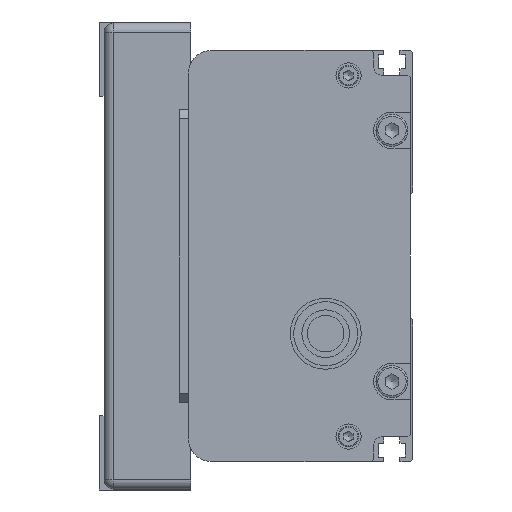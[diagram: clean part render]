
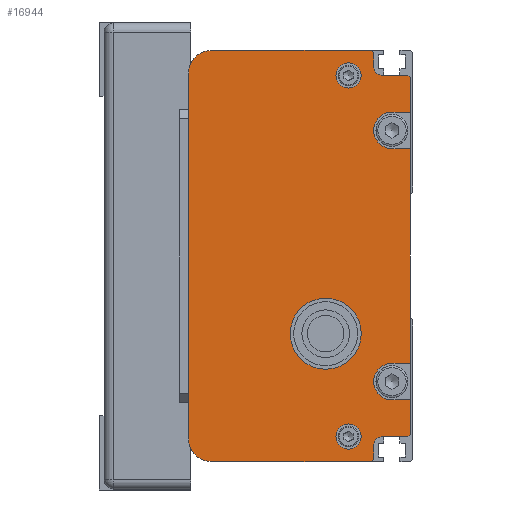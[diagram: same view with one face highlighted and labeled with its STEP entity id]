
A CAD part, left-side view. The second image highlights one B-rep face of the part: STEP entity #16944.
In plain terms, the highlighted planar face has unit normal (-1, 0, 0) as drawn and (0, 0, -1) by its records, which use the part's own axes.
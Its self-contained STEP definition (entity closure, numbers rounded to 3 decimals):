
#1076=FACE_BOUND('',#2476,.T.);
#1077=FACE_BOUND('',#2477,.T.);
#1078=FACE_BOUND('',#2478,.T.);
#1406=FACE_OUTER_BOUND('',#2475,.T.);
#2475=EDGE_LOOP('',(#11767,#11768,#11769,#11770,#11771,#11772,#11773,#11774,
#11775,#11776,#11777,#11778,#11779,#11780,#11781,#11782,#11783,#11784,#11785,
#11786,#11787,#11788,#11789,#11790));
#2476=EDGE_LOOP('',(#11791));
#2477=EDGE_LOOP('',(#11792));
#2478=EDGE_LOOP('',(#11793));
#3765=LINE('',#24545,#5263);
#3791=LINE('',#24612,#5289);
#3793=LINE('',#24617,#5291);
#3794=LINE('',#24619,#5292);
#3795=LINE('',#24622,#5293);
#3796=LINE('',#24624,#5294);
#3797=LINE('',#24626,#5295);
#3798=LINE('',#24630,#5296);
#3799=LINE('',#24632,#5297);
#3800=LINE('',#24634,#5298);
#3801=LINE('',#24638,#5299);
#3802=LINE('',#24640,#5300);
#3803=LINE('',#24642,#5301);
#3804=LINE('',#24644,#5302);
#3805=LINE('',#24648,#5303);
#3806=LINE('',#24650,#5304);
#3807=LINE('',#24651,#5305);
#3808=LINE('',#24652,#5306);
#5263=VECTOR('',#19938,80.);
#5289=VECTOR('',#19990,0.707);
#5291=VECTOR('',#19994,0.707);
#5292=VECTOR('',#19995,3.);
#5293=VECTOR('',#19998,5.5);
#5294=VECTOR('',#19999,7.5);
#5295=VECTOR('',#20000,4.);
#5296=VECTOR('',#20003,4.);
#5297=VECTOR('',#20004,47.);
#5298=VECTOR('',#20005,4.);
#5299=VECTOR('',#20008,4.);
#5300=VECTOR('',#20009,7.5);
#5301=VECTOR('',#20010,0.707);
#5302=VECTOR('',#20011,5.5);
#5303=VECTOR('',#20014,3.);
#5304=VECTOR('',#20015,0.707);
#5305=VECTOR('',#20016,35.);
#5306=VECTOR('',#20017,35.);
#6648=CIRCLE('',#18096,5.);
#6651=CIRCLE('',#18103,5.);
#6653=CIRCLE('',#18109,2.);
#6654=CIRCLE('',#18110,4.);
#6655=CIRCLE('',#18111,4.);
#6656=CIRCLE('',#18112,2.);
#6657=CIRCLE('',#18113,7.769);
#6658=CIRCLE('',#18114,2.75);
#6659=CIRCLE('',#18115,2.75);
#7251=VERTEX_POINT('',#24542);
#7252=VERTEX_POINT('',#24544);
#7253=VERTEX_POINT('',#24548);
#7256=VERTEX_POINT('',#24559);
#7279=VERTEX_POINT('',#24609);
#7280=VERTEX_POINT('',#24611);
#7281=VERTEX_POINT('',#24615);
#7282=VERTEX_POINT('',#24616);
#7283=VERTEX_POINT('',#24618);
#7284=VERTEX_POINT('',#24620);
#7285=VERTEX_POINT('',#24623);
#7286=VERTEX_POINT('',#24625);
#7287=VERTEX_POINT('',#24627);
#7288=VERTEX_POINT('',#24629);
#7289=VERTEX_POINT('',#24631);
#7290=VERTEX_POINT('',#24633);
#7291=VERTEX_POINT('',#24635);
#7292=VERTEX_POINT('',#24637);
#7293=VERTEX_POINT('',#24639);
#7294=VERTEX_POINT('',#24641);
#7295=VERTEX_POINT('',#24643);
#7296=VERTEX_POINT('',#24645);
#7297=VERTEX_POINT('',#24647);
#7298=VERTEX_POINT('',#24649);
#7299=VERTEX_POINT('',#24653);
#7300=VERTEX_POINT('',#24655);
#7301=VERTEX_POINT('',#24657);
#9033=EDGE_CURVE('',#7251,#7252,#3765,.T.);
#9035=EDGE_CURVE('',#7252,#7253,#6648,.T.);
#9040=EDGE_CURVE('',#7256,#7251,#6651,.T.);
#9064=EDGE_CURVE('',#7279,#7280,#3791,.T.);
#9066=EDGE_CURVE('',#7281,#7282,#3793,.T.);
#9067=EDGE_CURVE('',#7281,#7283,#3794,.T.);
#9068=EDGE_CURVE('',#7283,#7284,#6653,.T.);
#9069=EDGE_CURVE('',#7284,#7280,#3795,.T.);
#9070=EDGE_CURVE('',#7285,#7279,#3796,.T.);
#9071=EDGE_CURVE('',#7285,#7286,#3797,.T.);
#9072=EDGE_CURVE('',#7286,#7287,#6654,.T.);
#9073=EDGE_CURVE('',#7287,#7288,#3798,.T.);
#9074=EDGE_CURVE('',#7289,#7288,#3799,.T.);
#9075=EDGE_CURVE('',#7289,#7290,#3800,.T.);
#9076=EDGE_CURVE('',#7290,#7291,#6655,.T.);
#9077=EDGE_CURVE('',#7291,#7292,#3801,.T.);
#9078=EDGE_CURVE('',#7293,#7292,#3802,.T.);
#9079=EDGE_CURVE('',#7294,#7293,#3803,.T.);
#9080=EDGE_CURVE('',#7294,#7295,#3804,.T.);
#9081=EDGE_CURVE('',#7295,#7296,#6656,.T.);
#9082=EDGE_CURVE('',#7296,#7297,#3805,.T.);
#9083=EDGE_CURVE('',#7298,#7297,#3806,.T.);
#9084=EDGE_CURVE('',#7253,#7298,#3807,.T.);
#9085=EDGE_CURVE('',#7282,#7256,#3808,.T.);
#9086=EDGE_CURVE('',#7299,#7299,#6657,.T.);
#9087=EDGE_CURVE('',#7300,#7300,#6658,.T.);
#9088=EDGE_CURVE('',#7301,#7301,#6659,.T.);
#11767=ORIENTED_EDGE('',*,*,#9066,.F.);
#11768=ORIENTED_EDGE('',*,*,#9067,.T.);
#11769=ORIENTED_EDGE('',*,*,#9068,.T.);
#11770=ORIENTED_EDGE('',*,*,#9069,.T.);
#11771=ORIENTED_EDGE('',*,*,#9064,.F.);
#11772=ORIENTED_EDGE('',*,*,#9070,.F.);
#11773=ORIENTED_EDGE('',*,*,#9071,.T.);
#11774=ORIENTED_EDGE('',*,*,#9072,.T.);
#11775=ORIENTED_EDGE('',*,*,#9073,.T.);
#11776=ORIENTED_EDGE('',*,*,#9074,.F.);
#11777=ORIENTED_EDGE('',*,*,#9075,.T.);
#11778=ORIENTED_EDGE('',*,*,#9076,.T.);
#11779=ORIENTED_EDGE('',*,*,#9077,.T.);
#11780=ORIENTED_EDGE('',*,*,#9078,.F.);
#11781=ORIENTED_EDGE('',*,*,#9079,.F.);
#11782=ORIENTED_EDGE('',*,*,#9080,.T.);
#11783=ORIENTED_EDGE('',*,*,#9081,.T.);
#11784=ORIENTED_EDGE('',*,*,#9082,.T.);
#11785=ORIENTED_EDGE('',*,*,#9083,.F.);
#11786=ORIENTED_EDGE('',*,*,#9084,.F.);
#11787=ORIENTED_EDGE('',*,*,#9035,.F.);
#11788=ORIENTED_EDGE('',*,*,#9033,.F.);
#11789=ORIENTED_EDGE('',*,*,#9040,.F.);
#11790=ORIENTED_EDGE('',*,*,#9085,.F.);
#11791=ORIENTED_EDGE('',*,*,#9086,.T.);
#11792=ORIENTED_EDGE('',*,*,#9087,.T.);
#11793=ORIENTED_EDGE('',*,*,#9088,.T.);
#16334=PLANE('',#18108);
#16944=ADVANCED_FACE('',(#1406,#1076,#1077,#1078),#16334,.F.);
#18096=AXIS2_PLACEMENT_3D('',#24549,#19942,#19943);
#18103=AXIS2_PLACEMENT_3D('',#24561,#19958,#19959);
#18108=AXIS2_PLACEMENT_3D('',#24614,#19992,#19993);
#18109=AXIS2_PLACEMENT_3D('',#24621,#19996,#19997);
#18110=AXIS2_PLACEMENT_3D('',#24628,#20001,#20002);
#18111=AXIS2_PLACEMENT_3D('',#24636,#20006,#20007);
#18112=AXIS2_PLACEMENT_3D('',#24646,#20012,#20013);
#18113=AXIS2_PLACEMENT_3D('',#24654,#20018,#20019);
#18114=AXIS2_PLACEMENT_3D('',#24656,#20020,#20021);
#18115=AXIS2_PLACEMENT_3D('',#24658,#20022,#20023);
#19938=DIRECTION('',(-1.,0.,0.));
#19942=DIRECTION('center_axis',(0.,0.,1.));
#19943=DIRECTION('ref_axis',(0.,1.,0.));
#19958=DIRECTION('center_axis',(0.,0.,1.));
#19959=DIRECTION('ref_axis',(1.,0.,0.));
#19990=DIRECTION('',(0.707,0.707,0.));
#19992=DIRECTION('center_axis',(0.,0.,1.));
#19993=DIRECTION('ref_axis',(1.,0.,0.));
#19994=DIRECTION('',(0.707,0.707,0.));
#19995=DIRECTION('',(-1.,0.,0.));
#19996=DIRECTION('center_axis',(0.,0.,1.));
#19997=DIRECTION('ref_axis',(0.,1.,0.));
#19998=DIRECTION('',(0.,-1.,0.));
#19999=DIRECTION('',(1.,0.,0.));
#20000=DIRECTION('',(0.,1.,0.));
#20001=DIRECTION('center_axis',(0.,0.,1.));
#20002=DIRECTION('ref_axis',(-1.,0.,0.));
#20003=DIRECTION('',(0.,-1.,0.));
#20004=DIRECTION('',(1.,0.,0.));
#20005=DIRECTION('',(0.,1.,0.));
#20006=DIRECTION('center_axis',(0.,0.,1.));
#20007=DIRECTION('ref_axis',(-1.,0.,0.));
#20008=DIRECTION('',(0.,-1.,0.));
#20009=DIRECTION('',(1.,0.,0.));
#20010=DIRECTION('',(0.707,-0.707,0.));
#20011=DIRECTION('',(0.,1.,0.));
#20012=DIRECTION('center_axis',(0.,0.,1.));
#20013=DIRECTION('ref_axis',(-1.,0.,0.));
#20014=DIRECTION('',(-1.,0.,0.));
#20015=DIRECTION('',(0.707,-0.707,0.));
#20016=DIRECTION('',(0.,-1.,0.));
#20017=DIRECTION('',(0.,1.,0.));
#20018=DIRECTION('center_axis',(0.,0.,1.));
#20019=DIRECTION('ref_axis',(0.766,-0.643,0.));
#20020=DIRECTION('center_axis',(0.,0.,1.));
#20021=DIRECTION('ref_axis',(-1.,0.,0.));
#20022=DIRECTION('center_axis',(0.,0.,1.));
#20023=DIRECTION('ref_axis',(-1.,0.,0.));
#24542=CARTESIAN_POINT('',(37.988,51.846,-447.249));
#24544=CARTESIAN_POINT('',(-42.012,51.846,-447.249));
#24545=CARTESIAN_POINT('',(37.988,51.846,-447.249));
#24548=CARTESIAN_POINT('',(-47.012,46.846,-447.249));
#24549=CARTESIAN_POINT('Origin',(-42.012,46.846,-447.249));
#24559=CARTESIAN_POINT('',(42.988,46.846,-447.249));
#24561=CARTESIAN_POINT('Origin',(37.988,46.846,-447.249));
#24609=CARTESIAN_POINT('',(36.988,3.346,-447.249));
#24611=CARTESIAN_POINT('',(37.488,3.846,-447.249));
#24612=CARTESIAN_POINT('',(36.988,3.346,-447.249));
#24614=CARTESIAN_POINT('Origin',(-2.012,27.249,-447.249));
#24615=CARTESIAN_POINT('',(42.488,11.346,-447.249));
#24616=CARTESIAN_POINT('',(42.988,11.846,-447.249));
#24617=CARTESIAN_POINT('',(42.488,11.346,-447.249));
#24618=CARTESIAN_POINT('',(39.488,11.346,-447.249));
#24619=CARTESIAN_POINT('',(42.488,11.346,-447.249));
#24620=CARTESIAN_POINT('',(37.488,9.346,-447.249));
#24621=CARTESIAN_POINT('Origin',(39.488,9.346,-447.249));
#24622=CARTESIAN_POINT('',(37.488,9.346,-447.249));
#24623=CARTESIAN_POINT('',(29.488,3.346,-447.249));
#24624=CARTESIAN_POINT('',(29.488,3.346,-447.249));
#24625=CARTESIAN_POINT('',(29.488,7.346,-447.249));
#24626=CARTESIAN_POINT('',(29.488,3.346,-447.249));
#24627=CARTESIAN_POINT('',(21.488,7.346,-447.249));
#24628=CARTESIAN_POINT('Origin',(25.488,7.346,-447.249));
#24629=CARTESIAN_POINT('',(21.488,3.346,-447.249));
#24630=CARTESIAN_POINT('',(21.488,7.346,-447.249));
#24631=CARTESIAN_POINT('',(-25.512,3.346,-447.249));
#24632=CARTESIAN_POINT('',(-25.512,3.346,-447.249));
#24633=CARTESIAN_POINT('',(-25.512,7.346,-447.249));
#24634=CARTESIAN_POINT('',(-25.512,3.346,-447.249));
#24635=CARTESIAN_POINT('',(-33.512,7.346,-447.249));
#24636=CARTESIAN_POINT('Origin',(-29.512,7.346,-447.249));
#24637=CARTESIAN_POINT('',(-33.512,3.346,-447.249));
#24638=CARTESIAN_POINT('',(-33.512,7.346,-447.249));
#24639=CARTESIAN_POINT('',(-41.012,3.346,-447.249));
#24640=CARTESIAN_POINT('',(-41.012,3.346,-447.249));
#24641=CARTESIAN_POINT('',(-41.512,3.846,-447.249));
#24642=CARTESIAN_POINT('',(-41.512,3.846,-447.249));
#24643=CARTESIAN_POINT('',(-41.512,9.346,-447.249));
#24644=CARTESIAN_POINT('',(-41.512,3.846,-447.249));
#24645=CARTESIAN_POINT('',(-43.512,11.346,-447.249));
#24646=CARTESIAN_POINT('Origin',(-43.512,9.346,-447.249));
#24647=CARTESIAN_POINT('',(-46.512,11.346,-447.249));
#24648=CARTESIAN_POINT('',(-43.512,11.346,-447.249));
#24649=CARTESIAN_POINT('',(-47.012,11.846,-447.249));
#24650=CARTESIAN_POINT('',(-47.012,11.846,-447.249));
#24651=CARTESIAN_POINT('',(-47.012,46.846,-447.249));
#24652=CARTESIAN_POINT('',(42.988,11.846,-447.249));
#24653=CARTESIAN_POINT('',(20.939,16.853,-447.249));
#24654=CARTESIAN_POINT('Origin',(14.988,21.846,-447.249));
#24655=CARTESIAN_POINT('',(34.738,16.846,-447.249));
#24656=CARTESIAN_POINT('Origin',(37.488,16.846,-447.249));
#24657=CARTESIAN_POINT('',(-44.262,16.846,-447.249));
#24658=CARTESIAN_POINT('Origin',(-41.512,16.846,-447.249));
